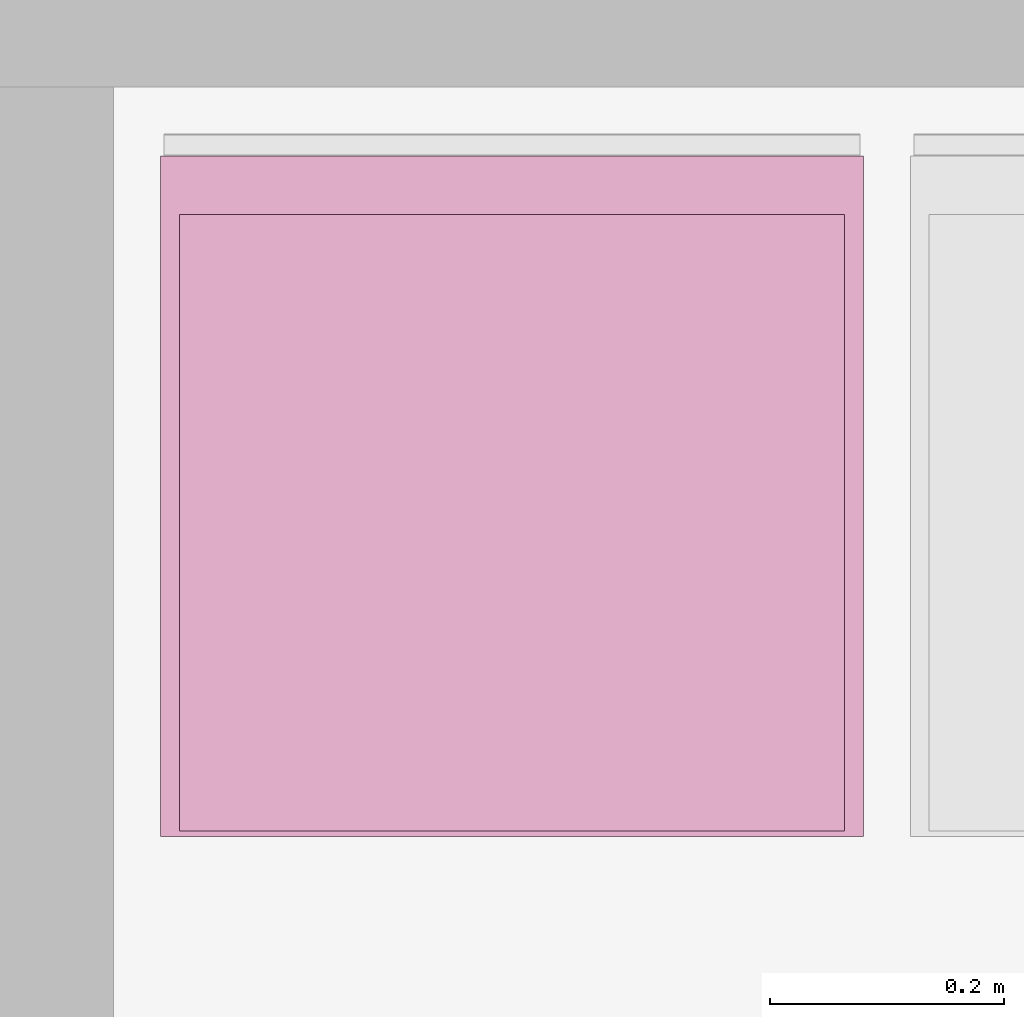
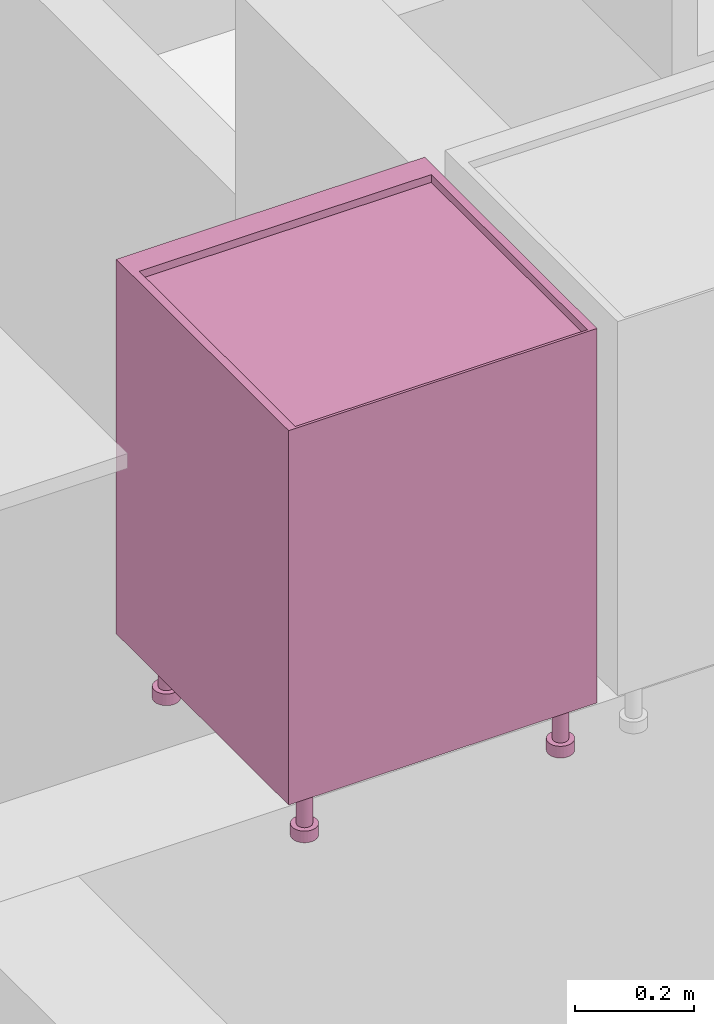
# One storey, part 86 of 125: 1 furnishing.
"""IFC2X3 building model written with IfcOpenShell, lengths in millimetres."""

from ifc_helpers import new_model, entity, si_unit, converted_unit, direction, frame, origin, place, context, subcontext, project, spatial, faceted_brep, source, transform, mapped, material, type_object, type_shapes, element, save


model = new_model("IFC2X3")

# Units and contexts
model_context = context("Model", 3, precision=0.01, world=origin(), true_north=direction((6.123233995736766e-17, 1.0)))
plan_context = context("Plan", 3, precision=0.01, world=origin(), true_north=direction((6.123233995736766e-17, 1.0)))
body_context = subcontext(model_context, "Body", "Model", "MODEL_VIEW")
ifc_project = project(units=[si_unit("LENGTHUNIT", "METRE", prefix="MILLI"), converted_unit("PLANEANGLEUNIT", "DEGREE", entity("IfcPlaneAngleMeasure", 0.017453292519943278), si_unit("PLANEANGLEUNIT", "RADIAN"), dimensions=[0, 0, 0, 0, 0, 0, 0]), si_unit("AREAUNIT", "SQUARE_METRE")], contexts=[model_context, plan_context])

# Site, building, storey, space
site_placement = place(None, origin())
site = spatial("IfcSite", under=ifc_project, at=site_placement, Name="Default", CompositionType="ELEMENT")
building_placement = place(site_placement, origin())
building = spatial("IfcBuilding", under=site, at=building_placement, CompositionType="ELEMENT")
storey_placement = place(building_placement, frame((0.0, 0.0, 3125.0)))
storey = spatial("IfcBuildingStorey", under=building, at=storey_placement, Name="2K", CompositionType="ELEMENT", Elevation=3125.0)
space_placement = place(storey_placement, origin())
space = spatial("IfcSpace", under=storey, at=space_placement, Name="2-4.7", CompositionType="ELEMENT", InteriorOrExteriorSpace="INTERNAL")

# Furnishing
ifc_material = material(Name="<Unnamed>")
furniture_type = type_object("IfcFurnitureType", Name="HR_Casework_Kitchen_Generic_Appliance_v4:Washing Machine", AssemblyPlace="NOTDEFINED", material=ifc_material)
shared_shape = source(origin(), body_context, "Body", "Brep", [
    faceted_brep([(305.7003264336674, -585.7846096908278, -3101.0), (310.6708891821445, -581.9705627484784, -3101.0), (300.70032643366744, -577.1243556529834, -3101.0), (297.32379306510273, -578.5229615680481, -3101.0), (299.91198351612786, -588.1822198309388, -3101.0), (303.59982137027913, -574.8994949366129, -3101.0), (314.4849361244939, -577.0, -3101.0), (305.82468208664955, -572.0, -3101.0), (307.2232880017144, -568.6234666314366, -3101.0), (316.8825462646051, -571.2116570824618, -3101.0), (307.70032643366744, -565.0, -3101.0), (317.7003264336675, -565.0, -3101.0), (307.2232880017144, -561.3765333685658, -3101.0), (316.88254626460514, -558.7883429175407, -3101.0), (305.82468208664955, -558.0, -3101.0), (314.484936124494, -553.0, -3101.0), (303.59982137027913, -555.1005050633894, -3101.0), (310.67088918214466, -548.0294372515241, -3101.0), (300.70032643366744, -552.875644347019, -3101.0), (305.7003264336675, -544.2153903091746, -3101.0), (297.32379306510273, -551.4770384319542, -3101.0), (299.91198351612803, -541.8177801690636, -3101.0), (293.7003264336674, -551.0, -3101.0), (293.70032643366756, -541.0, -3101.0), (290.07685980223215, -551.4770384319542, -3101.0), (287.488669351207, -541.8177801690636, -3101.0), (286.70032643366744, -552.875644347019, -3101.0), (281.7003264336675, -544.2153903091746, -3101.0), (283.80083149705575, -555.1005050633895, -3101.0), (276.7297636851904, -548.029437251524, -3101.0), (281.5759707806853, -558.0, -3101.0), (272.91571674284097, -553.0, -3101.0), (270.51810660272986, -558.7883429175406, -3101.0), (280.1773648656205, -561.3765333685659, -3101.0), (269.7003264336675, -565.0, -3101.0), (279.7003264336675, -565.0, -3101.0), (270.51810660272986, -571.2116570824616, -3101.0), (280.1773648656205, -568.6234666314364, -3101.0), (272.9157167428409, -577.0, -3101.0), (281.57597078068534, -572.0, -3101.0), (276.7297636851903, -581.9705627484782, -3101.0), (283.80083149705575, -574.8994949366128, -3101.0), (281.70032643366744, -585.7846096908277, -3101.0), (286.70032643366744, -577.1243556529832, -3101.0), (287.4886693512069, -588.1822198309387, -3101.0), (290.07685980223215, -578.5229615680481, -3101.0), (293.7003264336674, -589.0, -3101.0), (293.70032643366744, -579.0, -3101.0), (299.91198351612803, -541.8177801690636, -3125.0), (305.7003264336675, -544.2153903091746, -3125.0), (310.67088918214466, -548.0294372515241, -3125.0), (314.484936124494, -553.0, -3125.0), (316.88254626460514, -558.7883429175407, -3125.0), (317.7003264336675, -565.0, -3125.0), (316.8825462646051, -571.2116570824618, -3125.0), (314.4849361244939, -577.0, -3125.0), (310.6708891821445, -581.9705627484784, -3125.0), (305.7003264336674, -585.7846096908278, -3125.0), (299.91198351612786, -588.1822198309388, -3125.0), (293.7003264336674, -589.0, -3125.0), (287.4886693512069, -588.1822198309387, -3125.0), (281.70032643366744, -585.7846096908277, -3125.0), (276.7297636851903, -581.9705627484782, -3125.0), (272.9157167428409, -577.0, -3125.0), (270.51810660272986, -571.2116570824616, -3125.0), (269.7003264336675, -565.0, -3125.0), (270.51810660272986, -558.7883429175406, -3125.0), (272.91571674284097, -553.0, -3125.0), (276.7297636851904, -548.029437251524, -3125.0), (281.7003264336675, -544.2153903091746, -3125.0), (287.488669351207, -541.8177801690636, -3125.0), (293.70032643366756, -541.0, -3125.0), (297.32379306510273, -578.5229615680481, -3025.0), (300.70032643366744, -577.1243556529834, -3025.0), (303.59982137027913, -574.8994949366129, -3025.0), (305.8246820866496, -572.0, -3025.0), (307.2232880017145, -568.6234666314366, -3025.0), (307.70032643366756, -565.0, -3025.0), (307.2232880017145, -561.3765333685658, -3025.0), (305.8246820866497, -558.0, -3025.0), (303.5998213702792, -555.1005050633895, -3025.0), (300.70032643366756, -552.875644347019, -3025.0), (297.32379306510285, -551.4770384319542, -3025.0), (293.70032643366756, -551.0, -3025.0), (290.07685980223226, -551.4770384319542, -3025.0), (286.70032643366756, -552.875644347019, -3025.0), (283.80083149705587, -555.1005050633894, -3025.0), (281.5759707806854, -558.0, -3025.0), (280.1773648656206, -561.3765333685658, -3025.0), (279.70032643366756, -565.0, -3025.0), (280.1773648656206, -568.6234666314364, -3025.0), (281.5759707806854, -572.0, -3025.0), (283.8008314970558, -574.8994949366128, -3025.0), (286.7003264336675, -577.1243556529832, -3025.0), (290.07685980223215, -578.5229615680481, -3025.0), (293.70032643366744, -579.0, -3025.0)], [[[0, 1, 2]], [[0, 2, 3]], [[3, 4, 0]], [[2, 1, 5]], [[6, 5, 1]], [[7, 5, 6]], [[8, 7, 6]], [[8, 6, 9]], [[8, 9, 10]], [[10, 9, 11]], [[12, 10, 11]], [[12, 11, 13]], [[14, 12, 13]], [[14, 13, 15]], [[16, 14, 15]], [[15, 17, 16]], [[17, 18, 16]], [[18, 17, 19]], [[18, 19, 20]], [[21, 20, 19]], [[20, 21, 22]], [[22, 21, 23]], [[23, 24, 22]], [[24, 23, 25]], [[24, 25, 26]], [[27, 26, 25]], [[27, 28, 26]], [[27, 29, 28]], [[30, 28, 29]], [[31, 30, 29]], [[32, 30, 31]], [[33, 30, 32]], [[33, 32, 34]], [[34, 35, 33]], [[36, 35, 34]], [[36, 37, 35]], [[37, 36, 38]], [[39, 37, 38]], [[39, 38, 40]], [[39, 40, 41]], [[40, 42, 41]], [[41, 42, 43]], [[43, 42, 44]], [[44, 45, 43]], [[46, 45, 44]], [[4, 47, 46]], [[45, 46, 47]], [[4, 3, 47]], [[48, 49, 50, 51, 52, 53, 54, 55, 56, 57, 58, 59, 60, 61, 62, 63, 64, 65, 66, 67, 68, 69, 70, 71]], [[64, 36, 34, 65]], [[63, 38, 36, 64]], [[42, 40, 62, 61]], [[63, 62, 40, 38]], [[44, 42, 61, 60]], [[46, 44, 60, 59]], [[58, 4, 46, 59]], [[57, 0, 4, 58]], [[54, 53, 11, 9]], [[1, 0, 57, 56]], [[6, 55, 54, 9]], [[6, 1, 56, 55]], [[52, 13, 11, 53]], [[51, 15, 13, 52]], [[19, 17, 50, 49]], [[51, 50, 17, 15]], [[21, 19, 49, 48]], [[23, 21, 48, 71]], [[27, 69, 68, 29]], [[31, 67, 66, 32]], [[68, 67, 31, 29]], [[32, 66, 65, 34]], [[25, 70, 69, 27]], [[70, 25, 23, 71]], [[72, 73, 74, 75, 76, 77, 78, 79, 80, 81, 82, 83, 84, 85, 86, 87, 88, 89, 90, 91, 92, 93, 94, 95]], [[37, 39, 91, 90]], [[35, 37, 90, 89]], [[43, 45, 94, 93]], [[41, 43, 93, 92]], [[39, 41, 92, 91]], [[47, 95, 94, 45]], [[2, 5, 74, 73]], [[3, 2, 73, 72]], [[8, 10, 77, 76]], [[7, 8, 76, 75]], [[5, 7, 75, 74]], [[3, 72, 95, 47]], [[79, 78, 12, 14]], [[78, 77, 10, 12]], [[80, 16, 18, 81]], [[16, 80, 79, 14]], [[81, 18, 20, 82]], [[22, 83, 82, 20]], [[26, 28, 86, 85]], [[24, 26, 85, 84]], [[33, 35, 89, 88]], [[30, 33, 88, 87]], [[28, 30, 87, 86]], [[24, 84, 83, 22]]]),
    faceted_brep([(-192.29967356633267, -585.7846096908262, -3101.0), (-187.3291108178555, -581.9705627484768, -3101.0), (-197.29967356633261, -577.1243556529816, -3101.0), (-200.67620693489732, -578.5229615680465, -3101.0), (-198.08801648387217, -588.1822198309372, -3101.0), (-194.40017862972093, -574.8994949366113, -3101.0), (-183.51506387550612, -577.0, -3101.0), (-192.17531791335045, -572.0, -3101.0), (-190.77671199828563, -568.6234666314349, -3101.0), (-181.11745373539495, -571.2116570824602, -3101.0), (-190.29967356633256, -565.0, -3101.0), (-180.29967356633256, -565.0, -3101.0), (-190.77671199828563, -561.3765333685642, -3101.0), (-181.11745373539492, -558.788342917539, -3101.0), (-192.17531791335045, -558.0, -3101.0), (-183.515063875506, -553.0, -3101.0), (-194.40017862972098, -555.1005050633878, -3101.0), (-187.3291108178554, -548.0294372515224, -3101.0), (-197.29967356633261, -552.8756443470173, -3101.0), (-192.29967356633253, -544.215390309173, -3101.0), (-200.67620693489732, -551.4770384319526, -3101.0), (-198.08801648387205, -541.8177801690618, -3101.0), (-204.29967356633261, -551.0, -3101.0), (-204.29967356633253, -541.0, -3101.0), (-207.92314019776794, -551.4770384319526, -3101.0), (-210.51133064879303, -541.8177801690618, -3101.0), (-211.29967356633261, -552.8756443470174, -3101.0), (-216.29967356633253, -544.215390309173, -3101.0), (-214.19916850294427, -555.1005050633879, -3101.0), (-221.27023631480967, -548.0294372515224, -3101.0), (-216.42402921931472, -558.0, -3101.0), (-225.08428325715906, -553.0, -3101.0), (-227.48189339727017, -558.788342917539, -3101.0), (-217.8226351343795, -561.3765333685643, -3101.0), (-228.2996735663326, -565.0, -3101.0), (-218.29967356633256, -565.0, -3101.0), (-227.48189339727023, -571.21165708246, -3101.0), (-217.8226351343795, -568.6234666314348, -3101.0), (-225.08428325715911, -577.0, -3101.0), (-216.42402921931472, -572.0, -3101.0), (-221.27023631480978, -581.9705627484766, -3101.0), (-214.19916850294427, -574.8994949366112, -3101.0), (-216.29967356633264, -585.784609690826, -3101.0), (-211.29967356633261, -577.1243556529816, -3101.0), (-210.51133064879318, -588.1822198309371, -3101.0), (-207.9231401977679, -578.5229615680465, -3101.0), (-204.2996735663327, -589.0, -3101.0), (-204.29967356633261, -579.0, -3101.0), (-198.08801648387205, -541.8177801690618, -3125.0), (-192.29967356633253, -544.215390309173, -3125.0), (-187.3291108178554, -548.0294372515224, -3125.0), (-183.515063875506, -553.0, -3125.0), (-181.11745373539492, -558.788342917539, -3125.0), (-180.29967356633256, -565.0, -3125.0), (-181.11745373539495, -571.2116570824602, -3125.0), (-183.51506387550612, -577.0, -3125.0), (-187.3291108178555, -581.9705627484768, -3125.0), (-192.29967356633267, -585.7846096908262, -3125.0), (-198.08801648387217, -588.1822198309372, -3125.0), (-204.2996735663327, -589.0, -3125.0), (-210.51133064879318, -588.1822198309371, -3125.0), (-216.29967356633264, -585.784609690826, -3125.0), (-221.27023631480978, -581.9705627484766, -3125.0), (-225.08428325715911, -577.0, -3125.0), (-227.48189339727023, -571.21165708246, -3125.0), (-228.2996735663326, -565.0, -3125.0), (-227.48189339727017, -558.788342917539, -3125.0), (-225.08428325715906, -553.0, -3125.0), (-221.27023631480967, -548.0294372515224, -3125.0), (-216.29967356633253, -544.215390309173, -3125.0), (-210.51133064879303, -541.8177801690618, -3125.0), (-204.29967356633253, -541.0, -3125.0), (-200.67620693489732, -578.5229615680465, -3025.0), (-197.29967356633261, -577.1243556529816, -3025.0), (-194.40017862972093, -574.8994949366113, -3025.0), (-192.17531791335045, -572.0, -3025.0), (-190.77671199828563, -568.6234666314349, -3025.0), (-190.29967356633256, -565.0, -3025.0), (-190.77671199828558, -561.3765333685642, -3025.0), (-192.1753179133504, -558.0, -3025.0), (-194.40017862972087, -555.1005050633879, -3025.0), (-197.29967356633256, -552.8756443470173, -3025.0), (-200.67620693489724, -551.4770384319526, -3025.0), (-204.29967356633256, -551.0, -3025.0), (-207.92314019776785, -551.4770384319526, -3025.0), (-211.29967356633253, -552.8756443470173, -3025.0), (-214.1991685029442, -555.1005050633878, -3025.0), (-216.4240292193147, -558.0, -3025.0), (-217.8226351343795, -561.3765333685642, -3025.0), (-218.29967356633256, -565.0, -3025.0), (-217.8226351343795, -568.6234666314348, -3025.0), (-216.42402921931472, -572.0, -3025.0), (-214.19916850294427, -574.8994949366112, -3025.0), (-211.2996735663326, -577.1243556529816, -3025.0), (-207.9231401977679, -578.5229615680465, -3025.0), (-204.29967356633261, -579.0, -3025.0)], [[[0, 1, 2]], [[0, 2, 3]], [[3, 4, 0]], [[2, 1, 5]], [[6, 5, 1]], [[7, 5, 6]], [[8, 7, 6]], [[8, 6, 9]], [[8, 9, 10]], [[10, 9, 11]], [[12, 10, 11]], [[12, 11, 13]], [[14, 12, 13]], [[14, 13, 15]], [[16, 14, 15]], [[15, 17, 16]], [[17, 18, 16]], [[18, 17, 19]], [[18, 19, 20]], [[21, 20, 19]], [[20, 21, 22]], [[22, 21, 23]], [[23, 24, 22]], [[24, 23, 25]], [[24, 25, 26]], [[27, 26, 25]], [[27, 28, 26]], [[27, 29, 28]], [[30, 28, 29]], [[31, 30, 29]], [[32, 30, 31]], [[33, 30, 32]], [[33, 32, 34]], [[34, 35, 33]], [[36, 35, 34]], [[36, 37, 35]], [[37, 36, 38]], [[39, 37, 38]], [[39, 38, 40]], [[39, 40, 41]], [[40, 42, 41]], [[41, 42, 43]], [[43, 42, 44]], [[44, 45, 43]], [[46, 45, 44]], [[4, 47, 46]], [[45, 46, 47]], [[4, 3, 47]], [[48, 49, 50, 51, 52, 53, 54, 55, 56, 57, 58, 59, 60, 61, 62, 63, 64, 65, 66, 67, 68, 69, 70, 71]], [[64, 36, 34, 65]], [[63, 38, 36, 64]], [[42, 40, 62, 61]], [[63, 62, 40, 38]], [[44, 42, 61, 60]], [[46, 44, 60, 59]], [[58, 4, 46, 59]], [[57, 0, 4, 58]], [[54, 53, 11, 9]], [[1, 0, 57, 56]], [[6, 55, 54, 9]], [[6, 1, 56, 55]], [[52, 13, 11, 53]], [[51, 15, 13, 52]], [[19, 17, 50, 49]], [[51, 50, 17, 15]], [[21, 19, 49, 48]], [[23, 21, 48, 71]], [[27, 69, 68, 29]], [[31, 67, 66, 32]], [[68, 67, 31, 29]], [[32, 66, 65, 34]], [[25, 70, 69, 27]], [[70, 25, 23, 71]], [[72, 73, 74, 75, 76, 77, 78, 79, 80, 81, 82, 83, 84, 85, 86, 87, 88, 89, 90, 91, 92, 93, 94, 95]], [[37, 39, 91, 90]], [[35, 37, 90, 89]], [[43, 45, 94, 93]], [[41, 43, 93, 92]], [[39, 41, 92, 91]], [[47, 95, 94, 45]], [[2, 5, 74, 73]], [[3, 2, 73, 72]], [[8, 10, 77, 76]], [[7, 8, 76, 75]], [[5, 7, 75, 74]], [[3, 72, 95, 47]], [[79, 78, 12, 14]], [[78, 77, 10, 12]], [[80, 16, 18, 81]], [[16, 80, 79, 14]], [[81, 18, 20, 82]], [[22, 83, 82, 20]], [[26, 28, 86, 85]], [[24, 26, 85, 84]], [[33, 35, 89, 88]], [[30, 33, 88, 87]], [[28, 30, 87, 86]], [[24, 84, 83, 22]]]),
    faceted_brep([(305.70032643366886, -120.78460969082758, -3101.0), (310.670889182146, -116.97056274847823, -3101.0), (300.7003264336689, -112.12435565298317, -3101.0), (297.3237930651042, -113.52296156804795, -3101.0), (299.91198351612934, -123.18221983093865, -3101.0), (303.5998213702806, -109.8994949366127, -3101.0), (314.48493612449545, -112.0, -3101.0), (305.824682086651, -107.0, -3101.0), (307.2232880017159, -103.62346663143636, -3101.0), (316.88254626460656, -106.21165708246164, -3101.0), (307.700326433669, -100.0, -3101.0), (317.700326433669, -100.0, -3101.0), (307.2232880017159, -96.3765333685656, -3101.0), (316.8825462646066, -93.78834291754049, -3101.0), (305.824682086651, -93.0, -3101.0), (314.4849361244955, -88.0, -3101.0), (303.5998213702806, -90.10050506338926, -3101.0), (310.67088918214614, -83.02943725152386, -3101.0), (300.7003264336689, -87.8756443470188, -3101.0), (305.700326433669, -79.21539030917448, -3101.0), (297.3237930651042, -86.477038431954, -3101.0), (299.9119835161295, -76.81778016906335, -3101.0), (293.70032643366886, -86.0, -3101.0), (293.70032643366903, -76.0, -3101.0), (290.0768598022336, -86.47703843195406, -3101.0), (287.4886693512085, -76.81778016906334, -3101.0), (286.7003264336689, -87.87564434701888, -3101.0), (281.700326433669, -79.21539030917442, -3101.0), (283.8008314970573, -90.10050506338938, -3101.0), (276.72976368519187, -83.0294372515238, -3101.0), (281.5759707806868, -93.0, -3101.0), (272.91571674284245, -88.0, -3101.0), (270.51810660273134, -93.78834291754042, -3101.0), (280.177364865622, -96.37653336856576, -3101.0), (269.700326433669, -100.0, -3101.0), (279.700326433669, -100.0, -3101.0), (270.51810660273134, -106.2116570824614, -3101.0), (280.177364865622, -103.62346663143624, -3101.0), (272.9157167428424, -112.0, -3101.0), (281.5759707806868, -107.0, -3101.0), (276.72976368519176, -116.97056274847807, -3101.0), (283.8008314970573, -109.89949493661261, -3101.0), (281.7003264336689, -120.78460969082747, -3101.0), (286.7003264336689, -112.1243556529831, -3101.0), (287.4886693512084, -123.1822198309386, -3101.0), (290.0768598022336, -113.52296156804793, -3101.0), (293.70032643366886, -124.0, -3101.0), (293.7003264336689, -114.0, -3101.0), (299.9119835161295, -76.81778016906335, -3125.0), (305.700326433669, -79.21539030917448, -3125.0), (310.67088918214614, -83.02943725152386, -3125.0), (314.4849361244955, -88.0, -3125.0), (316.8825462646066, -93.78834291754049, -3125.0), (317.700326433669, -100.0, -3125.0), (316.88254626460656, -106.21165708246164, -3125.0), (314.48493612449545, -112.0, -3125.0), (310.670889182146, -116.97056274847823, -3125.0), (305.70032643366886, -120.78460969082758, -3125.0), (299.91198351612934, -123.18221983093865, -3125.0), (293.70032643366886, -124.0, -3125.0), (287.4886693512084, -123.1822198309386, -3125.0), (281.7003264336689, -120.78460969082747, -3125.0), (276.72976368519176, -116.97056274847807, -3125.0), (272.9157167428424, -112.0, -3125.0), (270.51810660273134, -106.2116570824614, -3125.0), (269.700326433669, -100.0, -3125.0), (270.51810660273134, -93.78834291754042, -3125.0), (272.91571674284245, -88.0, -3125.0), (276.72976368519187, -83.0294372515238, -3125.0), (281.700326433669, -79.21539030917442, -3125.0), (287.4886693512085, -76.81778016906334, -3125.0), (293.70032643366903, -76.0, -3125.0), (297.32379306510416, -113.52296156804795, -3025.0), (300.70032643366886, -112.12435565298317, -3025.0), (303.59982137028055, -109.8994949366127, -3025.0), (305.824682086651, -107.0, -3025.0), (307.22328800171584, -103.62346663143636, -3025.0), (307.700326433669, -100.0, -3025.0), (307.2232880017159, -96.3765333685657, -3025.0), (305.82468208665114, -93.0, -3025.0), (303.5998213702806, -90.10050506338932, -3025.0), (300.700326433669, -87.87564434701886, -3025.0), (297.32379306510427, -86.47703843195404, -3025.0), (293.700326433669, -86.0, -3025.0), (290.0768598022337, -86.47703843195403, -3025.0), (286.700326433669, -87.87564434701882, -3025.0), (283.8008314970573, -90.1005050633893, -3025.0), (281.5759707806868, -93.0, -3025.0), (280.177364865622, -96.37653336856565, -3025.0), (279.700326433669, -100.0, -3025.0), (280.177364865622, -103.62346663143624, -3025.0), (281.5759707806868, -107.0, -3025.0), (283.80083149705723, -109.89949493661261, -3025.0), (286.7003264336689, -112.1243556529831, -3025.0), (290.07685980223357, -113.52296156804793, -3025.0), (293.70032643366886, -114.0, -3025.0)], [[[0, 1, 2]], [[0, 2, 3]], [[3, 4, 0]], [[2, 1, 5]], [[6, 5, 1]], [[7, 5, 6]], [[8, 7, 6]], [[8, 6, 9]], [[8, 9, 10]], [[10, 9, 11]], [[12, 10, 11]], [[12, 11, 13]], [[14, 12, 13]], [[14, 13, 15]], [[16, 14, 15]], [[15, 17, 16]], [[17, 18, 16]], [[18, 17, 19]], [[18, 19, 20]], [[21, 20, 19]], [[20, 21, 22]], [[22, 21, 23]], [[23, 24, 22]], [[24, 23, 25]], [[24, 25, 26]], [[27, 26, 25]], [[27, 28, 26]], [[27, 29, 28]], [[30, 28, 29]], [[31, 30, 29]], [[32, 30, 31]], [[33, 30, 32]], [[33, 32, 34]], [[34, 35, 33]], [[36, 35, 34]], [[36, 37, 35]], [[37, 36, 38]], [[39, 37, 38]], [[39, 38, 40]], [[39, 40, 41]], [[40, 42, 41]], [[41, 42, 43]], [[43, 42, 44]], [[44, 45, 43]], [[46, 45, 44]], [[4, 47, 46]], [[45, 46, 47]], [[4, 3, 47]], [[48, 49, 50, 51, 52, 53, 54, 55, 56, 57, 58, 59, 60, 61, 62, 63, 64, 65, 66, 67, 68, 69, 70, 71]], [[64, 36, 34, 65]], [[63, 38, 36, 64]], [[42, 40, 62, 61]], [[63, 62, 40, 38]], [[44, 42, 61, 60]], [[46, 44, 60, 59]], [[58, 4, 46, 59]], [[57, 0, 4, 58]], [[54, 53, 11, 9]], [[1, 0, 57, 56]], [[6, 55, 54, 9]], [[6, 1, 56, 55]], [[52, 13, 11, 53]], [[51, 15, 13, 52]], [[19, 17, 50, 49]], [[51, 50, 17, 15]], [[21, 19, 49, 48]], [[23, 21, 48, 71]], [[27, 69, 68, 29]], [[31, 67, 66, 32]], [[68, 67, 31, 29]], [[32, 66, 65, 34]], [[25, 70, 69, 27]], [[70, 25, 23, 71]], [[72, 73, 74, 75, 76, 77, 78, 79, 80, 81, 82, 83, 84, 85, 86, 87, 88, 89, 90, 91, 92, 93, 94, 95]], [[37, 39, 91, 90]], [[35, 37, 90, 89]], [[43, 45, 94, 93]], [[41, 43, 93, 92]], [[39, 41, 92, 91]], [[47, 95, 94, 45]], [[2, 5, 74, 73]], [[3, 2, 73, 72]], [[8, 10, 77, 76]], [[7, 8, 76, 75]], [[5, 7, 75, 74]], [[3, 72, 95, 47]], [[79, 78, 12, 14]], [[78, 77, 10, 12]], [[80, 16, 18, 81]], [[16, 80, 79, 14]], [[81, 18, 20, 82]], [[22, 83, 82, 20]], [[26, 28, 86, 85]], [[24, 26, 85, 84]], [[33, 35, 89, 88]], [[30, 33, 88, 87]], [[28, 30, 87, 86]], [[24, 84, 83, 22]]]),
    faceted_brep([(-192.299673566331, -120.78460969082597, -3101.0), (-187.3291108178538, -116.97056274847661, -3101.0), (-197.29967356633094, -112.12435565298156, -3101.0), (-200.67620693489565, -113.52296156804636, -3101.0), (-198.0880164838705, -123.18221983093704, -3101.0), (-194.40017862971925, -109.89949493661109, -3101.0), (-183.5150638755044, -112.0, -3101.0), (-192.17531791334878, -107.0, -3101.0), (-190.77671199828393, -103.62346663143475, -3101.0), (-181.11745373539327, -106.21165708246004, -3101.0), (-190.29967356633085, -100.0, -3101.0), (-180.29967356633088, -100.0, -3101.0), (-190.77671199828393, -96.376533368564, -3101.0), (-181.11745373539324, -93.78834291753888, -3101.0), (-192.17531791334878, -93.0, -3101.0), (-183.51506387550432, -88.0, -3101.0), (-194.40017862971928, -90.10050506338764, -3101.0), (-187.32911081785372, -83.02943725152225, -3101.0), (-197.29967356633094, -87.8756443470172, -3101.0), (-192.29967356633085, -79.21539030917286, -3101.0), (-200.67620693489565, -86.4770384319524, -3101.0), (-198.08801648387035, -76.81778016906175, -3101.0), (-204.29967356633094, -86.0, -3101.0), (-204.29967356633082, -76.0, -3101.0), (-207.92314019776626, -86.47703843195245, -3101.0), (-210.51133064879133, -76.81778016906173, -3101.0), (-211.29967356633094, -87.87564434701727, -3101.0), (-216.29967356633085, -79.21539030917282, -3101.0), (-214.19916850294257, -90.10050506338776, -3101.0), (-221.270236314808, -83.0294372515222, -3101.0), (-216.424029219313, -93.0, -3101.0), (-225.08428325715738, -88.0, -3101.0), (-227.4818933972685, -93.78834291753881, -3101.0), (-217.82263513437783, -96.37653336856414, -3101.0), (-228.29967356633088, -100.0, -3101.0), (-218.29967356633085, -100.0, -3101.0), (-227.48189339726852, -106.2116570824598, -3101.0), (-217.82263513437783, -103.62346663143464, -3101.0), (-225.08428325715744, -112.0, -3101.0), (-216.424029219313, -107.0, -3101.0), (-221.27023631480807, -116.97056274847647, -3101.0), (-214.19916850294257, -109.899494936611, -3101.0), (-216.29967356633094, -120.78460969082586, -3101.0), (-211.29967356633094, -112.12435565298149, -3101.0), (-210.51133064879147, -123.18221983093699, -3101.0), (-207.9231401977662, -113.52296156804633, -3101.0), (-204.299673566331, -124.0, -3101.0), (-204.29967356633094, -114.0, -3101.0), (-198.08801648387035, -76.81778016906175, -3125.0), (-192.29967356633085, -79.21539030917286, -3125.0), (-187.32911081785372, -83.02943725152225, -3125.0), (-183.51506387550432, -88.0, -3125.0), (-181.11745373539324, -93.78834291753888, -3125.0), (-180.29967356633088, -100.0, -3125.0), (-181.11745373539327, -106.21165708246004, -3125.0), (-183.5150638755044, -112.0, -3125.0), (-187.3291108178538, -116.97056274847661, -3125.0), (-192.299673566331, -120.78460969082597, -3125.0), (-198.0880164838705, -123.18221983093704, -3125.0), (-204.299673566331, -124.0, -3125.0), (-210.51133064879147, -123.18221983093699, -3125.0), (-216.29967356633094, -120.78460969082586, -3125.0), (-221.27023631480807, -116.97056274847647, -3125.0), (-225.08428325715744, -112.0, -3125.0), (-227.48189339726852, -106.2116570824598, -3125.0), (-228.29967356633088, -100.0, -3125.0), (-227.4818933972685, -93.78834291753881, -3125.0), (-225.08428325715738, -88.0, -3125.0), (-221.270236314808, -83.0294372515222, -3125.0), (-216.29967356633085, -79.21539030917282, -3125.0), (-210.51133064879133, -76.81778016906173, -3125.0), (-204.29967356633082, -76.0, -3125.0), (-200.67620693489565, -113.52296156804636, -3025.0), (-197.29967356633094, -112.12435565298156, -3025.0), (-194.40017862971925, -109.89949493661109, -3025.0), (-192.17531791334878, -107.0, -3025.0), (-190.77671199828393, -103.62346663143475, -3025.0), (-190.29967356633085, -100.0, -3025.0), (-190.7767119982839, -96.3765333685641, -3025.0), (-192.1753179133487, -93.0, -3025.0), (-194.4001786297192, -90.10050506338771, -3025.0), (-197.29967356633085, -87.87564434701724, -3025.0), (-200.67620693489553, -86.47703843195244, -3025.0), (-204.29967356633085, -86.0, -3025.0), (-207.92314019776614, -86.47703843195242, -3025.0), (-211.29967356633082, -87.87564434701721, -3025.0), (-214.1991685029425, -90.10050506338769, -3025.0), (-216.42402921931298, -93.0, -3025.0), (-217.82263513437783, -96.37653336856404, -3025.0), (-218.29967356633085, -100.0, -3025.0), (-217.82263513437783, -103.62346663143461, -3025.0), (-216.424029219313, -107.0, -3025.0), (-214.19916850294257, -109.899494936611, -3025.0), (-211.29967356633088, -112.12435565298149, -3025.0), (-207.9231401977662, -113.52296156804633, -3025.0), (-204.29967356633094, -114.0, -3025.0)], [[[0, 1, 2]], [[0, 2, 3]], [[3, 4, 0]], [[2, 1, 5]], [[6, 5, 1]], [[7, 5, 6]], [[8, 7, 6]], [[8, 6, 9]], [[8, 9, 10]], [[10, 9, 11]], [[12, 10, 11]], [[12, 11, 13]], [[14, 12, 13]], [[14, 13, 15]], [[16, 14, 15]], [[15, 17, 16]], [[17, 18, 16]], [[18, 17, 19]], [[18, 19, 20]], [[21, 20, 19]], [[20, 21, 22]], [[22, 21, 23]], [[23, 24, 22]], [[24, 23, 25]], [[24, 25, 26]], [[27, 26, 25]], [[27, 28, 26]], [[27, 29, 28]], [[30, 28, 29]], [[31, 30, 29]], [[32, 30, 31]], [[33, 30, 32]], [[33, 32, 34]], [[34, 35, 33]], [[36, 35, 34]], [[36, 37, 35]], [[37, 36, 38]], [[39, 37, 38]], [[39, 38, 40]], [[39, 40, 41]], [[40, 42, 41]], [[41, 42, 43]], [[43, 42, 44]], [[44, 45, 43]], [[46, 45, 44]], [[4, 47, 46]], [[45, 46, 47]], [[4, 3, 47]], [[48, 49, 50, 51, 52, 53, 54, 55, 56, 57, 58, 59, 60, 61, 62, 63, 64, 65, 66, 67, 68, 69, 70, 71]], [[64, 36, 34, 65]], [[63, 38, 36, 64]], [[42, 40, 62, 61]], [[63, 62, 40, 38]], [[44, 42, 61, 60]], [[46, 44, 60, 59]], [[58, 4, 46, 59]], [[57, 0, 4, 58]], [[54, 53, 11, 9]], [[1, 0, 57, 56]], [[6, 55, 54, 9]], [[6, 1, 56, 55]], [[52, 13, 11, 53]], [[51, 15, 13, 52]], [[19, 17, 50, 49]], [[51, 50, 17, 15]], [[21, 19, 49, 48]], [[23, 21, 48, 71]], [[27, 69, 68, 29]], [[31, 67, 66, 32]], [[68, 67, 31, 29]], [[32, 66, 65, 34]], [[25, 70, 69, 27]], [[70, 25, 23, 71]], [[72, 73, 74, 75, 76, 77, 78, 79, 80, 81, 82, 83, 84, 85, 86, 87, 88, 89, 90, 91, 92, 93, 94, 95]], [[37, 39, 91, 90]], [[35, 37, 90, 89]], [[43, 45, 94, 93]], [[41, 43, 93, 92]], [[39, 41, 92, 91]], [[47, 95, 94, 45]], [[2, 5, 74, 73]], [[3, 2, 73, 72]], [[8, 10, 77, 76]], [[7, 8, 76, 75]], [[5, 7, 75, 74]], [[3, 72, 95, 47]], [[79, 78, 12, 14]], [[78, 77, 10, 12]], [[80, 16, 18, 81]], [[16, 80, 79, 14]], [[81, 18, 20, 82]], [[22, 83, 82, 20]], [[26, 28, 86, 85]], [[24, 26, 85, 84]], [[33, 35, 89, 88]], [[30, 33, 88, 87]], [[28, 30, 87, 86]], [[24, 84, 83, 22]]]),
    faceted_brep([(328.70032643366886, -19.0, -3009.0), (-239.2996735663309, -19.0, -3009.0), (-239.29967356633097, -595.0, -3009.0), (328.70032643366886, -595.0, -3009.0), (328.70032643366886, -19.0, -3025.0), (328.70032643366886, -595.0, -3025.0), (-239.29967356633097, -595.0, -3025.0), (-239.29967356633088, -19.0, -3025.0)], [[[0, 1, 2, 3]], [[4, 5, 6, 7]], [[1, 0, 4, 7]], [[2, 1, 7, 6]], [[3, 2, 6, 5]], [[0, 3, 5, 4]]]),
    faceted_brep([(-255.29967356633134, -19.0, -2255.0), (-255.2996735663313, -600.0, -2255.0), (344.7003264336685, -600.0, -2255.0), (344.7003264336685, -19.0, -2255.0), (328.70032643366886, -19.0, -2255.0), (328.70032643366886, -595.0, -2255.0), (-239.2996735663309, -595.0, -2255.0), (-239.2996735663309, -19.0, -2255.0), (-255.29967356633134, -19.0, -3025.0), (-239.2996735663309, -19.0, -3025.0), (-239.29967356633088, -595.0, -3025.0), (328.70032643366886, -595.0, -3025.0), (328.70032643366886, -19.0, -3025.0), (344.7003264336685, -19.0, -3025.0), (344.7003264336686, -600.0, -3025.0), (-255.2996735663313, -600.0, -3025.0)], [[[0, 1, 2, 3, 4, 5, 6, 7]], [[8, 9, 10, 11, 12, 13, 14, 15]], [[1, 0, 8, 15]], [[0, 7, 9, 8]], [[7, 6, 10, 9]], [[5, 4, 12, 11]], [[4, 3, 13, 12]], [[3, 2, 14, 13]], [[2, 1, 15, 14]], [[6, 5, 11, 10]]]),
    faceted_brep([(328.70032643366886, -69.0, -2255.0), (328.70032643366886, -19.0, -2255.0), (-239.29967356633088, -19.0, -2255.0), (-239.29967356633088, -69.0, -2255.0), (328.70032643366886, -69.0, -2271.0), (-239.29967356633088, -69.0, -2271.0), (-239.29967356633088, -19.0, -2271.0), (328.70032643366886, -19.0, -2271.0)], [[[0, 1, 2, 3]], [[4, 5, 6, 7]], [[0, 3, 5, 4]], [[3, 2, 6, 5]], [[2, 1, 7, 6]], [[1, 0, 4, 7]]]),
    faceted_brep([(328.7003264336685, -19.0, -2271.0), (-239.29967356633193, -19.0, -2271.0), (-239.2996735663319, -595.0, -2271.0), (328.7003264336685, -595.0, -2271.0), (328.7003264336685, -19.0, -3009.0), (328.7003264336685, -595.0, -3009.0), (-239.2996735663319, -595.0, -3009.0), (-239.2996735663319, -19.0, -3009.0)], [[[0, 1, 2, 3]], [[4, 5, 6, 7]], [[1, 0, 4, 7]], [[2, 1, 7, 6]], [[3, 2, 6, 5]], [[0, 3, 5, 4]]]),
])
type_shapes(furniture_type, [shared_shape])
furnishing_placement = place(space_placement, frame((12445.293208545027, 6359.999959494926, 6295.0)))
element("IfcFurnishingElement", 1, at=furnishing_placement, inside=space, type_object=furniture_type, material=ifc_material, Name="HR_Casework_Kitchen_Generic_Appliance_v4:Washing Machine", ObjectType="HR_Casework_Kitchen_Generic_Appliance_v4:Washing Machine", context=body_context, shape_type="MappedRepresentation", body=[
    mapped(shared_shape, transform((0.0, 0.0, 0.0), scale=1.0)),
])

save(model, "model.ifc")
